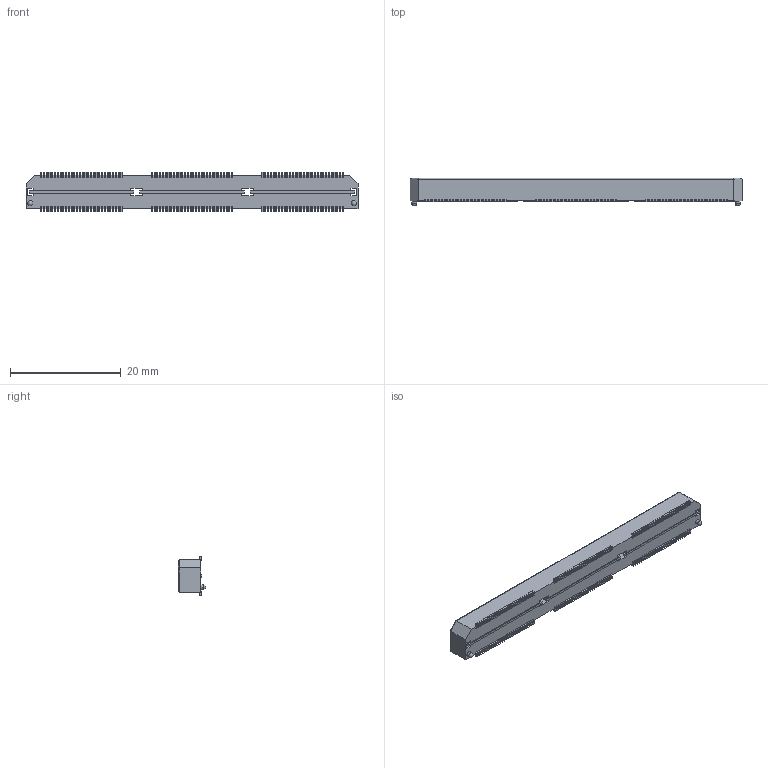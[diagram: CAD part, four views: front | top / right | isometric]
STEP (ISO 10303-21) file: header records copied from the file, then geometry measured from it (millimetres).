
FILE_DESCRIPTION(('STEP AP242'),'1');
FILE_NAME('strip_qth-090-01-f-d-a.stp','2022-03-14T16:52:02',('TraceParts'),('TraceParts S.A.'),'Spatial InterOp 3D',' ',' ');
FILE_SCHEMA(('AP242_MANAGED_MODEL_BASED_3D_ENGINEERING_MIM_LF {1 0 10303 442 1 1 4}'));
Length unit declared in the file: millimetre
Products named in the file (1): strip_qth-090-01-f-d-a
Bounding box: 60.02 x 5.03 x 7.11 mm (x, y, z)
Volume: 942.4 mm3; surface area: 2873.9 mm2
Topology: 1 solids, 1 shells, 3228 faces, 9122 edges, 6074 vertices
Faces by surface type: plane 3036, cylinder 190, sphere 2
Entity records: 128422 total; most frequent: CARTESIAN_POINT 18421, ORIENTED_EDGE 18236, DIRECTION 15972, EDGE_CURVE 9118, LINE 8722, VECTOR 8722, VERTEX_POINT 6074, AXIS2_PLACEMENT_3D 3625
